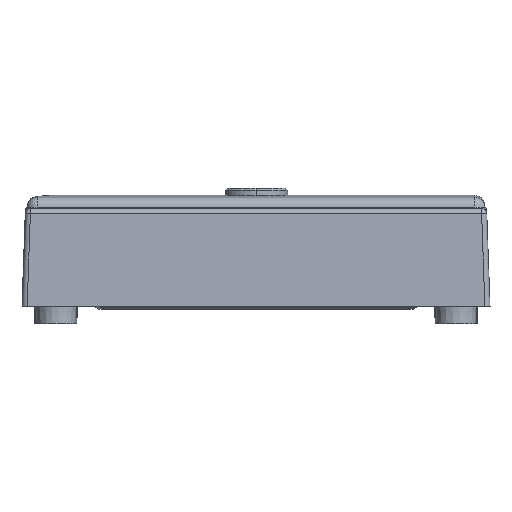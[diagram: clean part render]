
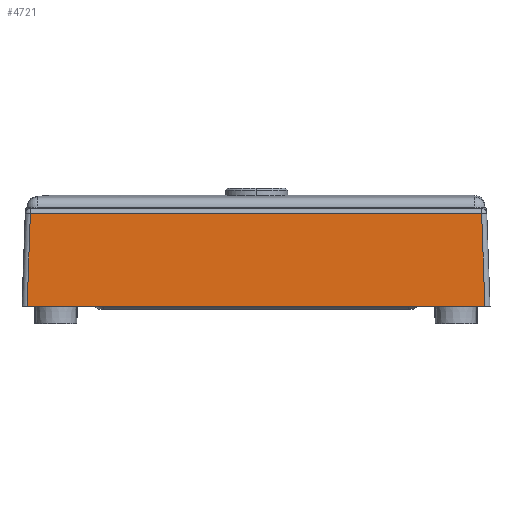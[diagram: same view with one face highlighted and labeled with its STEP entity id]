
A CAD part, front view. The second image highlights one B-rep face of the part: STEP entity #4721.
In plain terms, the highlighted planar face has unit normal (0, -0.999, 0.035).
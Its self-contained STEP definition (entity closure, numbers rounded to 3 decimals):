
#175 = CARTESIAN_POINT ( 'NONE',  ( 21.985, -11.685, 9.017 ) ) ;
#597 = VERTEX_POINT ( 'NONE', #3677 ) ;
#609 = EDGE_LOOP ( 'NONE', ( #4627, #1495, #4755, #4592 ) ) ;
#683 = CARTESIAN_POINT ( 'NONE',  ( -22.8, -12., 0. ) ) ;
#846 = EDGE_CURVE ( 'NONE', #4684, #597, #3212, .T. ) ;
#986 = DIRECTION ( 'NONE',  ( -0.035, -0.035, -0.999 ) ) ;
#1035 = CARTESIAN_POINT ( 'NONE',  ( 22.245, -11.945, 1.571 ) ) ;
#1039 = CARTESIAN_POINT ( 'NONE',  ( -22.301, -12.001, -0.017 ) ) ;
#1302 = DIRECTION ( 'NONE',  ( 1., 0., 0. ) ) ;
#1339 = DIRECTION ( 'NONE',  ( -0.035, 0.035, 0.999 ) ) ;
#1342 = CARTESIAN_POINT ( 'NONE',  ( 22.3, -12., 0. ) ) ;
#1394 = AXIS2_PLACEMENT_3D ( 'NONE', #683, #3608, #4233 ) ;
#1395 = VECTOR ( 'NONE', #2706, 1000. ) ;
#1495 = ORIENTED_EDGE ( 'NONE', *, *, #846, .T. ) ;
#1838 = EDGE_CURVE ( 'NONE', #2718, #4684, #2016, .T. ) ;
#2016 = LINE ( 'NONE', #2099, #1395 ) ;
#2099 = CARTESIAN_POINT ( 'NONE',  ( -22.468, -11.685, 9.017 ) ) ;
#2153 = VECTOR ( 'NONE', #1302, 1000. ) ;
#2429 = CARTESIAN_POINT ( 'NONE',  ( -22.8, -12., 0. ) ) ;
#2446 = CARTESIAN_POINT ( 'NONE',  ( -21.985, -11.685, 9.017 ) ) ;
#2486 = LINE ( 'NONE', #1035, #4161 ) ;
#2706 = DIRECTION ( 'NONE',  ( -1., 0., 0. ) ) ;
#2718 = VERTEX_POINT ( 'NONE', #175 ) ;
#2794 = LINE ( 'NONE', #2429, #2153 ) ;
#2860 = FACE_OUTER_BOUND ( 'NONE', #609, .T. ) ;
#3212 = LINE ( 'NONE', #1039, #3596 ) ;
#3448 = EDGE_CURVE ( 'NONE', #4460, #2718, #2486, .T. ) ;
#3596 = VECTOR ( 'NONE', #986, 1000. ) ;
#3608 = DIRECTION ( 'NONE',  ( 0., -0.999, 0.035 ) ) ;
#3677 = CARTESIAN_POINT ( 'NONE',  ( -22.3, -12., 0. ) ) ;
#3783 = EDGE_CURVE ( 'NONE', #597, #4460, #2794, .T. ) ;
#4161 = VECTOR ( 'NONE', #1339, 1000. ) ;
#4233 = DIRECTION ( 'NONE',  ( 0., -0.035, -0.999 ) ) ;
#4460 = VERTEX_POINT ( 'NONE', #1342 ) ;
#4585 = PLANE ( 'NONE',  #1394 ) ;
#4592 = ORIENTED_EDGE ( 'NONE', *, *, #3448, .T. ) ;
#4627 = ORIENTED_EDGE ( 'NONE', *, *, #1838, .T. ) ;
#4684 = VERTEX_POINT ( 'NONE', #2446 ) ;
#4721 = ADVANCED_FACE ( 'NONE', ( #2860 ), #4585, .T. ) ;
#4755 = ORIENTED_EDGE ( 'NONE', *, *, #3783, .T. ) ;
